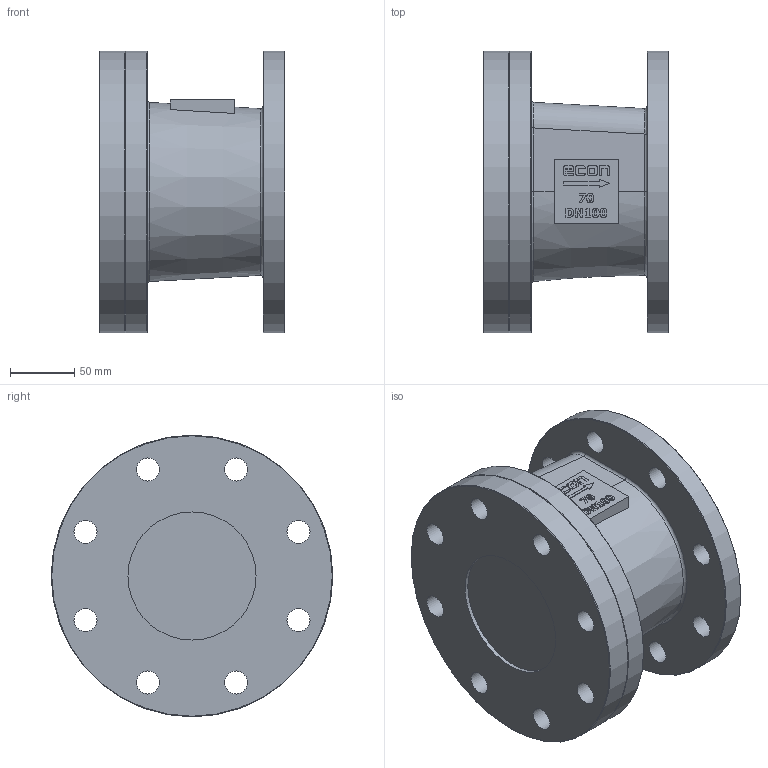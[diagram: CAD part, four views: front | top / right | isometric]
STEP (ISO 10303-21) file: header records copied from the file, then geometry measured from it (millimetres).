
FILE_DESCRIPTION(/* description */ ('Eriks item no: 13374486'),/* implementation_level */ '2;1');
FILE_NAME(/* name */ 'L:\DATA\ENG\Inventor\Econ 3D modellen\terugslagklep\70NGY\70NGY-DN100-PN16.stp',/* time_stamp */ '2023-12-05T08:39:16+01:00',/* author */ ('roger.thijssen'),/* organization */ (''),/* preprocessor_version */ 'ST-DEVELOPER v18',/* originating_system */ 'Autodesk Inventor 2020',/* authorisation */ '');
FILE_SCHEMA (('CONFIG_CONTROL_DESIGN'));
Length unit declared in the file: millimetre
Products named in the file (1): Check valve, 70NGY-DN100-PN16
Bounding box: 145 x 220 x 220 mm (x, y, z)
Volume: 3386741.8 mm3; surface area: 218052.9 mm2
Topology: 1 solids, 1 shells, 209 faces, 552 edges, 367 vertices
Faces by surface type: plane 108, bspline 50, cylinder 42, cone 7, torus 2
Full cylindrical faces by diameter (mm): 18 x16, 100 x2, 220 x3
Entity records: 7116 total; most frequent: CARTESIAN_POINT 2004, ORIENTED_EDGE 1104, DIRECTION 894, EDGE_CURVE 552, VERTEX_POINT 367, LINE 344, VECTOR 344, AXIS2_PLACEMENT_3D 275
